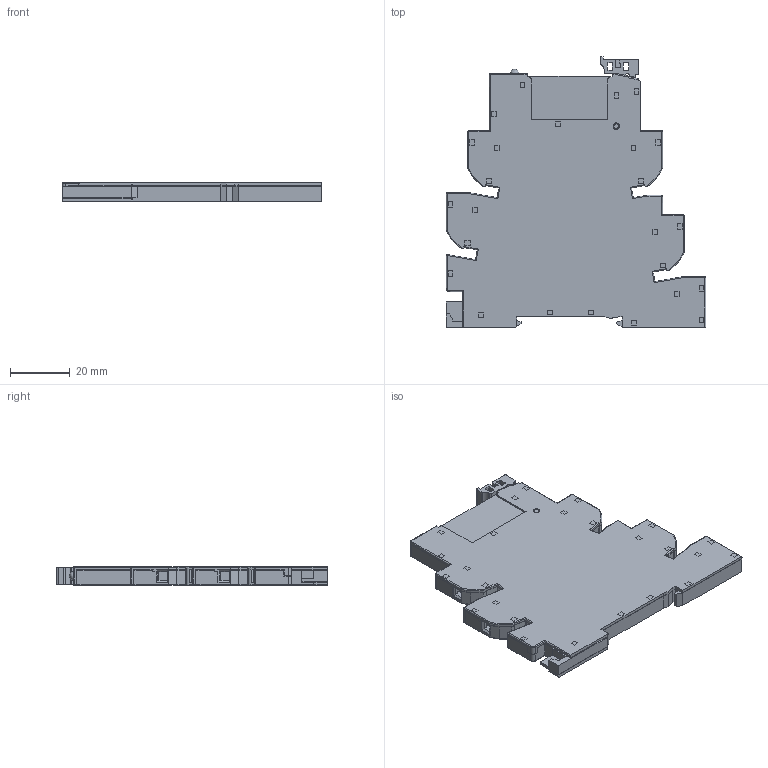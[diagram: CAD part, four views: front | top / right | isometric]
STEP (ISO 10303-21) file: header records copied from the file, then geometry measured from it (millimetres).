
FILE_DESCRIPTION(('STEP AP214'),'2;1');
FILE_NAME('3921=3451+9362.stp','2010-10-02T08:59:59',(''),(''),'2007.1.106','THINKDESIGN','');
FILE_SCHEMA(('AUTOMOTIVE_DESIGN'));
Products named in the file (1): None
Bounding box: 87 x 90.7 x 6.2 mm (x, y, z)
Surface area: 26846.9 mm2 (no closed solid volume)
Topology: 0 solids, 0 shells, 1032 faces, 7034 edges, 7014 vertices
Faces by surface type: plane 816, cylinder 180, bspline 36
Full cylindrical faces by diameter (mm): 2 x2, 2.2 x2, 3 x1, 3.9 x5
Entity records: 66255 total; most frequent: CARTESIAN_POINT 17456, DIRECTION 8740, COMPOSITE_CURVE_SEGMENT 7016, TRIMMED_CURVE 6457, VECTOR 6166, LINE 6166, AXIS2_PLACEMENT_3D 1287, OUTER_BOUNDARY_CURVE 1032
